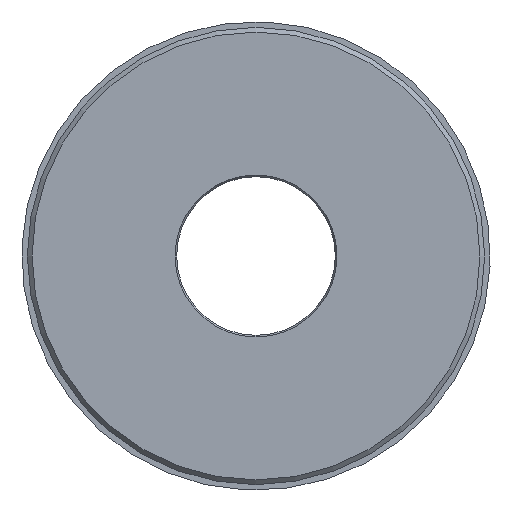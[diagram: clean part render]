
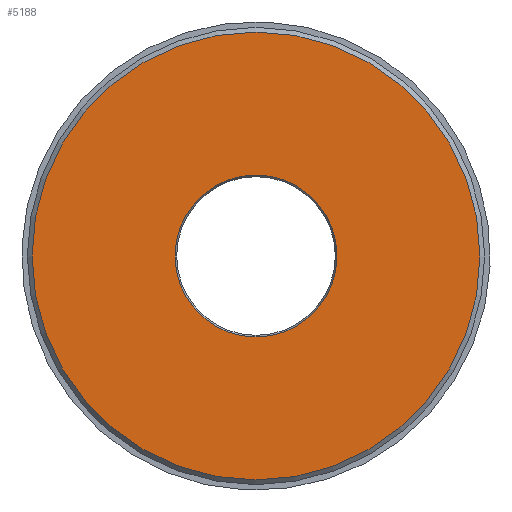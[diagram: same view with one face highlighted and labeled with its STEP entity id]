
A CAD part, left-side view. The second image highlights one B-rep face of the part: STEP entity #5188.
In plain terms, the highlighted planar face has unit normal (-1, 0, 0).
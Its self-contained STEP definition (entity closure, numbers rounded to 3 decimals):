
#95=FACE_BOUND('',#428,.T.);
#165=FACE_OUTER_BOUND('',#427,.T.);
#427=EDGE_LOOP('',(#3624));
#428=EDGE_LOOP('',(#3625));
#1789=CIRCLE('',#5679,24.);
#1790=CIRCLE('',#5681,8.673);
#2182=VERTEX_POINT('',#8320);
#2183=VERTEX_POINT('',#8324);
#2744=EDGE_CURVE('',#2182,#2182,#1789,.T.);
#2745=EDGE_CURVE('',#2183,#2183,#1790,.T.);
#3624=ORIENTED_EDGE('',*,*,#2744,.F.);
#3625=ORIENTED_EDGE('',*,*,#2745,.T.);
#4737=PLANE('',#5680);
#5188=ADVANCED_FACE('',(#165,#95),#4737,.T.);
#5679=AXIS2_PLACEMENT_3D('',#8322,#6698,#6699);
#5680=AXIS2_PLACEMENT_3D('',#8323,#6700,#6701);
#5681=AXIS2_PLACEMENT_3D('',#8325,#6702,#6703);
#6698=DIRECTION('center_axis',(1.,0.,0.));
#6699=DIRECTION('ref_axis',(0.,1.,0.));
#6700=DIRECTION('center_axis',(-1.,0.,0.));
#6701=DIRECTION('ref_axis',(0.,0.,
-1.));
#6702=DIRECTION('center_axis',(1.,0.,0.));
#6703=DIRECTION('ref_axis',(0.,0.,
-1.));
#8320=CARTESIAN_POINT('',(21.5,-24.,0.));
#8322=CARTESIAN_POINT('Origin',(21.5,0.,0.));
#8323=CARTESIAN_POINT('Origin',(21.5,-24.5,0.));
#8324=CARTESIAN_POINT('',(21.5,8.673,0.));
#8325=CARTESIAN_POINT('Origin',(21.5,0.,0.));
